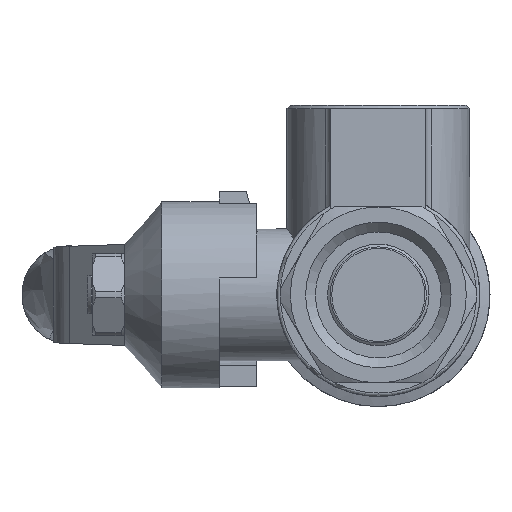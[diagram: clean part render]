
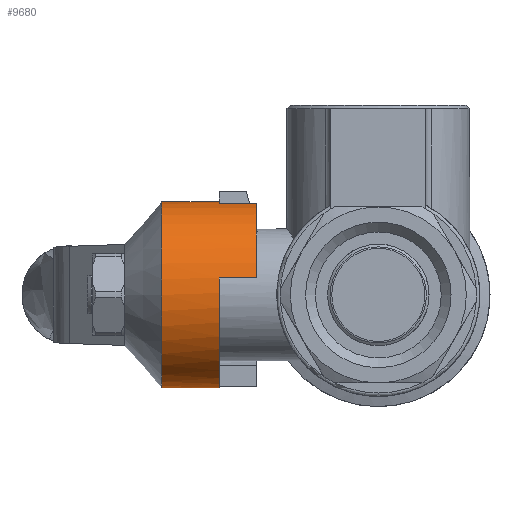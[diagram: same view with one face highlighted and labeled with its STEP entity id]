
A CAD part, left-side view. The second image highlights one B-rep face of the part: STEP entity #9680.
In plain terms, the highlighted cylindrical face has radius 13.75 mm (diameter 27.5 mm), a full revolution.
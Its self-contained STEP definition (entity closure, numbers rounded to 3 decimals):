
#435=ELLIPSE('',#10428,19.445,13.75);
#436=ELLIPSE('',#10430,19.445,13.75);
#666=CIRCLE('',#10370,13.75);
#667=CIRCLE('',#10374,13.75);
#669=CIRCLE('',#10377,13.75);
#670=CIRCLE('',#10378,13.75);
#674=CIRCLE('',#10383,13.75);
#676=CIRCLE('',#10394,13.75);
#700=CIRCLE('',#10427,13.75);
#701=CIRCLE('',#10429,13.75);
#1044=CYLINDRICAL_SURFACE('',#10426,13.75);
#1403=FACE_OUTER_BOUND('',#1971,.T.);
#1971=EDGE_LOOP('',(#7381,#7382,#7383,#7384,#7385,#7386,#7387,#7388,#7389,
#7390,#7391,#7392,#7393,#7394,#7395,#7396,#7397,#7398));
#2731=LINE('',#16223,#3412);
#2737=LINE('',#16235,#3418);
#2741=LINE('',#16247,#3422);
#2743=LINE('',#16253,#3424);
#2748=LINE('',#16279,#3429);
#2755=LINE('',#16302,#3436);
#2766=LINE('',#16383,#3447);
#3412=VECTOR('',#12154,10.);
#3418=VECTOR('',#12162,10.);
#3422=VECTOR('',#12174,10.);
#3424=VECTOR('',#12178,10.);
#3429=VECTOR('',#12207,10.);
#3436=VECTOR('',#12222,10.);
#3447=VECTOR('',#12313,13.75);
#4115=VERTEX_POINT('',#16219);
#4117=VERTEX_POINT('',#16222);
#4120=VERTEX_POINT('',#16229);
#4122=VERTEX_POINT('',#16233);
#4124=VERTEX_POINT('',#16241);
#4126=VERTEX_POINT('',#16245);
#4127=VERTEX_POINT('',#16249);
#4129=VERTEX_POINT('',#16252);
#4131=VERTEX_POINT('',#16261);
#4132=VERTEX_POINT('',#16263);
#4136=VERTEX_POINT('',#16273);
#4137=VERTEX_POINT('',#16277);
#4138=VERTEX_POINT('',#16278);
#4145=VERTEX_POINT('',#16298);
#4147=VERTEX_POINT('',#16301);
#4174=VERTEX_POINT('',#16381);
#5297=EDGE_CURVE('',#4115,#4117,#2731,.T.);
#5303=EDGE_CURVE('',#4120,#4122,#2737,.T.);
#5305=EDGE_CURVE('',#4117,#4122,#666,.T.);
#5309=EDGE_CURVE('',#4124,#4126,#2741,.T.);
#5311=EDGE_CURVE('',#4127,#4129,#2743,.T.);
#5314=EDGE_CURVE('',#4129,#4126,#667,.T.);
#5316=EDGE_CURVE('',#4131,#4120,#669,.T.);
#5317=EDGE_CURVE('',#4132,#4131,#670,.T.);
#5323=EDGE_CURVE('',#4127,#4136,#674,.T.);
#5324=EDGE_CURVE('',#4137,#4138,#2748,.T.);
#5335=EDGE_CURVE('',#4145,#4147,#2755,.T.);
#5345=EDGE_CURVE('',#4115,#4124,#676,.T.);
#5377=EDGE_CURVE('',#4147,#4137,#700,.T.);
#5378=EDGE_CURVE('',#4145,#4174,#435,.T.);
#5379=EDGE_CURVE('',#4174,#4131,#2766,.T.);
#5380=EDGE_CURVE('',#4132,#4136,#701,.T.);
#5381=EDGE_CURVE('',#4174,#4138,#436,.T.);
#7381=ORIENTED_EDGE('',*,*,#5377,.F.);
#7382=ORIENTED_EDGE('',*,*,#5335,.F.);
#7383=ORIENTED_EDGE('',*,*,#5378,.T.);
#7384=ORIENTED_EDGE('',*,*,#5379,.T.);
#7385=ORIENTED_EDGE('',*,*,#5316,.T.);
#7386=ORIENTED_EDGE('',*,*,#5303,.T.);
#7387=ORIENTED_EDGE('',*,*,#5305,.F.);
#7388=ORIENTED_EDGE('',*,*,#5297,.F.);
#7389=ORIENTED_EDGE('',*,*,#5345,.T.);
#7390=ORIENTED_EDGE('',*,*,#5309,.T.);
#7391=ORIENTED_EDGE('',*,*,#5314,.F.);
#7392=ORIENTED_EDGE('',*,*,#5311,.F.);
#7393=ORIENTED_EDGE('',*,*,#5323,.T.);
#7394=ORIENTED_EDGE('',*,*,#5380,.F.);
#7395=ORIENTED_EDGE('',*,*,#5317,.T.);
#7396=ORIENTED_EDGE('',*,*,#5379,.F.);
#7397=ORIENTED_EDGE('',*,*,#5381,.T.);
#7398=ORIENTED_EDGE('',*,*,#5324,.F.);
#9680=ADVANCED_FACE('',(#1403),#1044,.T.);
#10370=AXIS2_PLACEMENT_3D('',#16238,#12167,#12168);
#10374=AXIS2_PLACEMENT_3D('',#16258,#12183,#12184);
#10377=AXIS2_PLACEMENT_3D('',#16262,#12189,#12190);
#10378=AXIS2_PLACEMENT_3D('',#16264,#12191,#12192);
#10383=AXIS2_PLACEMENT_3D('',#16275,#12203,#12204);
#10394=AXIS2_PLACEMENT_3D('',#16320,#12237,#12238);
#10426=AXIS2_PLACEMENT_3D('',#16379,#12307,#12308);
#10427=AXIS2_PLACEMENT_3D('',#16380,#12309,#12310);
#10428=AXIS2_PLACEMENT_3D('',#16382,#12311,#12312);
#10429=AXIS2_PLACEMENT_3D('',#16384,#12314,#12315);
#10430=AXIS2_PLACEMENT_3D('',#16385,#12316,#12317);
#12154=DIRECTION('',(0.,-1.,0.));
#12162=DIRECTION('',(0.,-1.,0.));
#12167=DIRECTION('center_axis',(0.,-1.,0.));
#12168=DIRECTION('ref_axis',(0.182,0.,-0.983));
#12174=DIRECTION('',(0.,-1.,0.));
#12178=DIRECTION('',(0.,-1.,0.));
#12183=DIRECTION('center_axis',(0.,-1.,0.));
#12184=DIRECTION('ref_axis',(-0.182,0.,0.983));
#12189=DIRECTION('center_axis',(0.,1.,0.));
#12190=DIRECTION('ref_axis',(1.,0.,0.));
#12191=DIRECTION('center_axis',(0.,1.,0.));
#12192=DIRECTION('ref_axis',(1.,0.,0.));
#12203=DIRECTION('center_axis',(0.,1.,0.));
#12204=DIRECTION('ref_axis',(1.,0.,0.));
#12207=DIRECTION('',(0.,1.,0.));
#12222=DIRECTION('',(0.,-1.,0.));
#12237=DIRECTION('center_axis',(0.,1.,0.));
#12238=DIRECTION('ref_axis',(1.,0.,0.));
#12307=DIRECTION('center_axis',(0.,1.,0.));
#12308=DIRECTION('ref_axis',(-1.,0.,0.));
#12309=DIRECTION('center_axis',(0.,1.,0.));
#12310=DIRECTION('ref_axis',(1.,0.,0.));
#12311=DIRECTION('center_axis',(0.707,-0.707,0.));
#12312=DIRECTION('ref_axis',(-0.707,-0.707,0.));
#12313=DIRECTION('',(0.,-1.,0.));
#12314=DIRECTION('center_axis',(0.,-1.,0.));
#12315=DIRECTION('ref_axis',(-1.,0.,0.));
#12316=DIRECTION('center_axis',(0.707,-0.707,0.));
#12317=DIRECTION('ref_axis',(-0.707,-0.707,0.));
#16219=CARTESIAN_POINT('',(2.5,23.5,-13.521));
#16222=CARTESIAN_POINT('',(2.5,18.,-13.521));
#16223=CARTESIAN_POINT('',(2.5,23.5,-13.521));
#16229=CARTESIAN_POINT('',(13.521,23.5,-2.5));
#16233=CARTESIAN_POINT('',(13.521,18.,-2.5));
#16235=CARTESIAN_POINT('',(13.521,23.5,-2.5));
#16238=CARTESIAN_POINT('Origin',(0.,18.,
0.));
#16241=CARTESIAN_POINT('',(-13.521,23.5,2.5));
#16245=CARTESIAN_POINT('',(-13.521,18.,2.5));
#16247=CARTESIAN_POINT('',(-13.521,23.5,2.5));
#16249=CARTESIAN_POINT('',(-2.5,23.5,13.521));
#16252=CARTESIAN_POINT('',(-2.5,18.,13.521));
#16253=CARTESIAN_POINT('',(-2.5,23.5,13.521));
#16258=CARTESIAN_POINT('Origin',(0.,18.,
0.));
#16261=CARTESIAN_POINT('',(13.75,23.5,0.));
#16262=CARTESIAN_POINT('Origin',(0.,23.5,
0.));
#16263=CARTESIAN_POINT('',(2.323,23.5,13.552));
#16264=CARTESIAN_POINT('Origin',(0.,23.5,
0.));
#16273=CARTESIAN_POINT('',(-2.323,23.5,13.552));
#16275=CARTESIAN_POINT('Origin',(0.,23.5,
0.));
#16277=CARTESIAN_POINT('',(11.632,32.,7.331));
#16278=CARTESIAN_POINT('',(11.632,32.166,7.331));
#16279=CARTESIAN_POINT('',(11.632,32.,7.331));
#16298=CARTESIAN_POINT('',(11.632,32.166,-7.331));
#16301=CARTESIAN_POINT('',(11.632,32.,-7.331));
#16302=CARTESIAN_POINT('',(11.632,32.,-7.331));
#16320=CARTESIAN_POINT('Origin',(0.,23.5,
0.));
#16379=CARTESIAN_POINT('Origin',(0.,27.75,
0.));
#16380=CARTESIAN_POINT('Origin',(0.,32.,
0.));
#16381=CARTESIAN_POINT('',(13.75,34.284,0.));
#16382=CARTESIAN_POINT('Origin',(0.,20.534,
0.));
#16383=CARTESIAN_POINT('',(13.75,27.75,0.));
#16384=CARTESIAN_POINT('Origin',(0.,23.5,
0.));
#16385=CARTESIAN_POINT('Origin',(0.,20.534,
0.));
